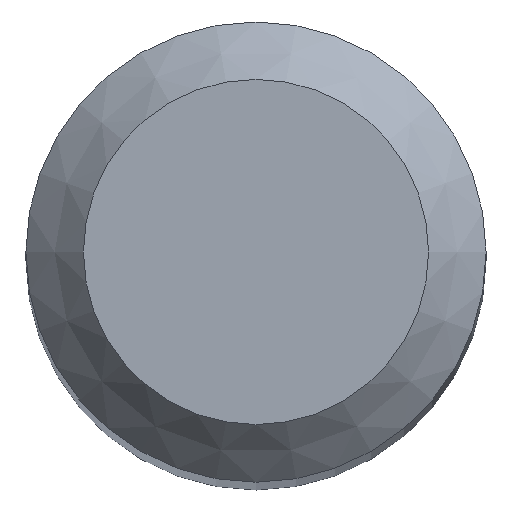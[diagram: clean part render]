
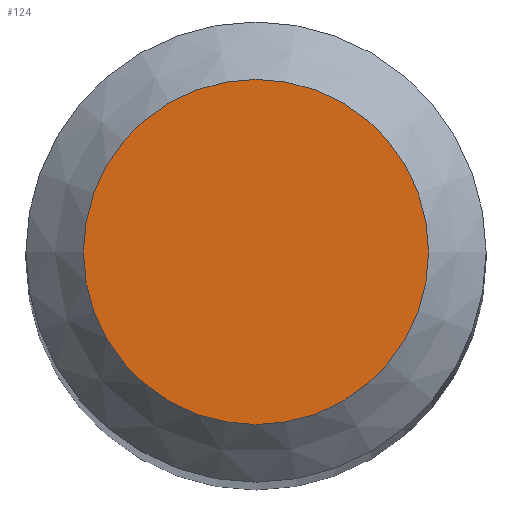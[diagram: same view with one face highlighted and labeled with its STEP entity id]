
A CAD part, top view. The second image highlights one B-rep face of the part: STEP entity #124.
In plain terms, the highlighted planar face has unit normal (0, 0, 1).
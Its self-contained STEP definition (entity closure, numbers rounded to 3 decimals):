
#108=CARTESIAN_POINT('',(1.5,0.0,70.0));
#109=DIRECTION('',(0.0,0.0,1.0));
#110=DIRECTION('',(1.0,0.0,0.0));
#111=AXIS2_PLACEMENT_3D('',#108,#109,#110);
#112=PLANE('',#111);
#113=CARTESIAN_POINT('',(-1.5,0.0,70.0));
#114=VERTEX_POINT('',#113);
#115=CARTESIAN_POINT('',(0.0,0.0,70.0));
#116=DIRECTION('',(0.0,0.0,-1.0));
#117=DIRECTION('',(-1.0,0.0,0.0));
#118=AXIS2_PLACEMENT_3D('',#115,#116,#117);
#119=CIRCLE('',#118,1.5);
#120=EDGE_CURVE('',#114,#114,#119,.T.);
#121=ORIENTED_EDGE('',*,*,#120,.F.);
#122=EDGE_LOOP('',(#121));
#123=FACE_OUTER_BOUND('',#122,.T.);
#124=ADVANCED_FACE('',(#123),#112,.T.);
